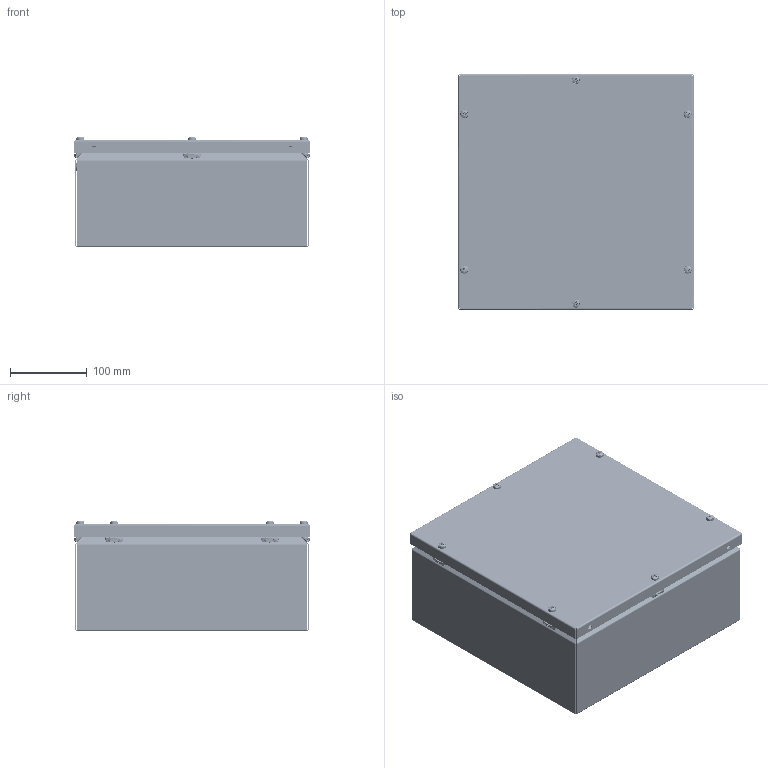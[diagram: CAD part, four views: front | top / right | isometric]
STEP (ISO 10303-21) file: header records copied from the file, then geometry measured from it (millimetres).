
FILE_DESCRIPTION((''),'2;1');
FILE_NAME('C:\Vault_Workspace\Inventor_Dwg\Inv-1\1400B\WEBSITE - 1400BSSP\1400BSSP103.stp','2015-03-04T14:45:44',('MichaelA'),(''),'Autodesk Inventor 2012','Autodesk Inventor 2012','');
FILE_SCHEMA(('AUTOMOTIVE_DESIGN { 1 0 10303 214 1 1 1 1 }'));
Length unit declared in the file: inch
Products named in the file (36): 1400B73; 1400B73B; 1400B73B-P; STK-Q-08500; STK-Q-70463-1; STK-Q-70463-P; STK-Q-70463-NUT; STK-Q-08100-A; STK-Q-08100-B; STK-Q-70455-SCREW; STK-Q-70455-ORING; STK-Q-70463-2; STK-Q-70464-1; STK-Q-70464-P; STK-Q-70464-NUT; STK-Q-08110-A; STK-Q-08110-B; STK-Q-70463-4; STK-Q-08100-1; STK-Q-08100-2; STK-Q-08100-3; STK-Q-08100-4; STK-P-02400S; 1400B73C; 1400B73C-P; 1400B73G; STK-Q-08350; STK-S-00100; STK-Q-03035; STK-Q-77280; 1400 B1xxIP; STK-Q-03200; STK-Q-55530; STK-Q-55530-P; STK-Q-02145; STK-Q-67220
Assembly tree (82 placements, depth 5):
  1400B73
    1400B73B
      1400B73B-P
      STK-Q-08500  x5
      STK-Q-70463-1
        STK-Q-70463-P
        STK-Q-70463-NUT
          STK-Q-08100-A
          STK-Q-08100-B
        STK-Q-70455-SCREW
        STK-Q-70455-ORING
      STK-Q-70463-2
        STK-Q-70463-P
        STK-Q-70463-NUT
          STK-Q-08100-A
          STK-Q-08100-B
        STK-Q-70455-SCREW
        STK-Q-70455-ORING
      STK-Q-70464-1  x3
        STK-Q-70464-P
        STK-Q-70464-NUT
          STK-Q-08110-A
          STK-Q-08110-B
        STK-Q-70455-SCREW
        STK-Q-70455-ORING
      STK-Q-70463-4
        STK-Q-70463-P
        STK-Q-70463-NUT
          STK-Q-08100-A
          STK-Q-08100-B
        STK-Q-70455-SCREW
        STK-Q-70455-ORING
      STK-Q-08100-1
        STK-Q-08100-A
        STK-Q-08100-B
      STK-Q-08100-2
        STK-Q-08100-A
        STK-Q-08100-B
      STK-Q-08100-3  x3
        STK-Q-08100-A
        STK-Q-08100-B
      STK-Q-08100-4
        STK-Q-08100-A
        STK-Q-08100-B
      STK-P-02400S
    1400B73C
      1400B73C-P
      1400B73G
      STK-Q-08350
      STK-S-00100
      STK-P-02400S
    STK-Q-03035  x6
    STK-Q-77280  x6
    1400 B1xxIP
    STK-Q-03200  x4
    STK-Q-55530  x3
      STK-Q-55530-P
      STK-Q-02145
    STK-Q-67220  x3
Bounding box: 309.37 x 309.37 x 144.12 mm (x, y, z)
Volume: 795579.6 mm3; surface area: 998875.5 mm2
Topology: 87 solids, 87 shells, 15709 faces, 39601 edges, 24508 vertices
Faces by surface type: plane 7097, cylinder 3589, bspline 3363, torus 1025, sphere 495, cone 140
Full cylindrical faces by diameter (mm): 0.762 x6, 0.9 x6, 2.2 x12, 4.2 x12, 5 x6, 5.03 x6, 5.1 x30, 5.842 x4, 6 x30, 6.1 x6, 7.024 x6, 7.366 x6, 7.5 x6, 7.62 x12, 7.747 x4, 8.128 x4, 9.3 x6, 10 x6, 10.106 x12, 10.4 x6, 12 x12, 13 x4
Entity records: 169204 total; most frequent: CARTESIAN_POINT 54487, ORIENTED_EDGE 24768, DIRECTION 21297, EDGE_CURVE 12384, VERTEX_POINT 7807, VECTOR 7447, LINE 7447, AXIS2_PLACEMENT_3D 6925
